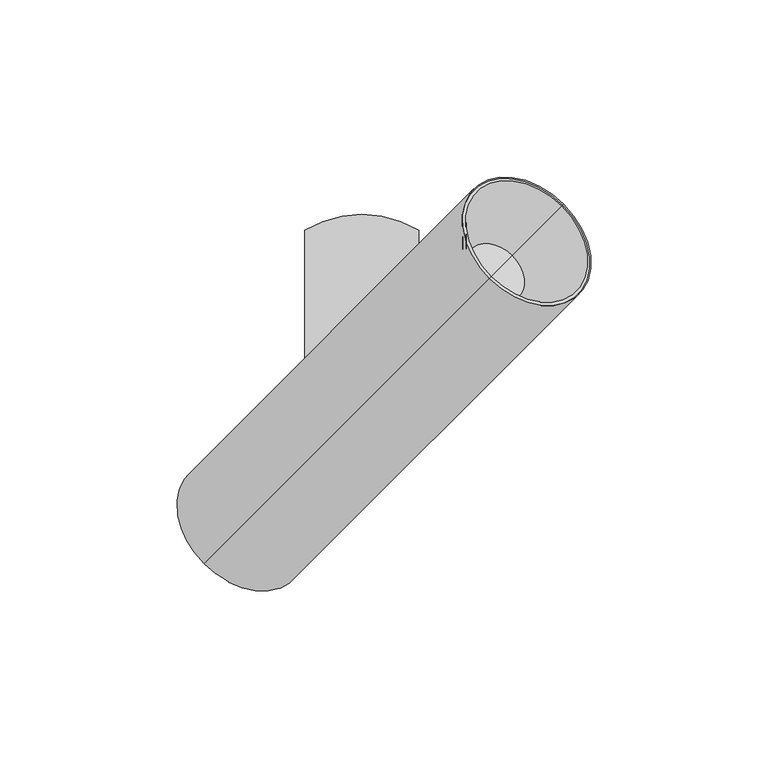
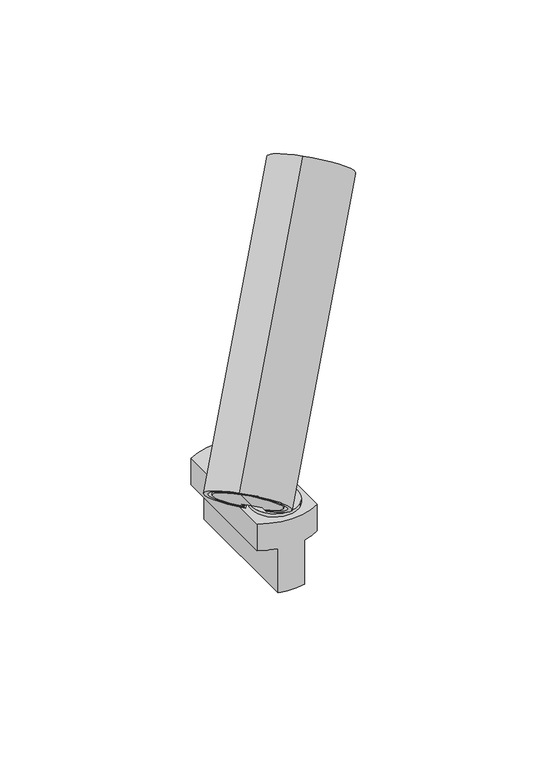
"""IFC4 building model written with IfcOpenShell, lengths in millimetres: light fixture geometry, PIPES T XS : 490lm 7,8W 930 38°."""

from ifc_helpers import new_model, si_unit, point, frame, frame_2d, origin, origin_2d, place, context, project, spatial, polyline, circle_curve, trimmed, segment, composite_curve, outline, extrude, source, transform, mapped, element, save
from ifc_brep_helpers import plane_surface, cylinder_surface, revolved_surface, advanced_brep


def light_fixture_6a247ec5(model_context):
    return source(origin(), model_context, "Body", "SolidModel", [
        extrude(outline(composite_curve([segment(polyline([(39.7303383, 0.0), (39.7303383, -7.9999999), (36.7303383, -7.9999999), (36.7303383, -10.0), (-21.31827, -10.0), (-21.31827, -2.0000001)]), True, "CONTINUOUS"), segment(trimmed(circle_curve(frame_2d((-15.691322, -2.0000001)), 5.626948), [point((-21.31827, -2.0000001))], [point((-15.691322, 3.626948))], False, "CARTESIAN"), True, "CONTINUOUS"), segment(polyline([(-15.691322, 3.626948), (-9.8735653, 3.626948)]), True, "CONTINUOUS"), segment(trimmed(circle_curve(frame_2d((-17.7182036, -2.2388678)), 9.7952104), [point((-9.8735653, 3.626948))], [point((-8.1822916, 0.0))], False, "CARTESIAN"), True, "CONTINUOUS"), segment(polyline([(-8.1822916, 0.0), (39.7303383, 0.0)]), True, "CONTINUOUS")], self_intersect=False)), frame((0.0, -7.0710678, 56.5303383), z_axis=(-0.707106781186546, 0.7071067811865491, 0.0), x_axis=(0.0, 0.0, -1.0)), (0.0, 0.0, 1.0), 10.0),
        extrude(outline(composite_curve([segment(trimmed(circle_curve(origin_2d(), 12.5), [point((-8.8388348, 8.8388348))], [point((8.8388348, -8.8388348))], False, "CARTESIAN"), True, "CONTINUOUS"), segment(trimmed(circle_curve(origin_2d(), 12.5), [point((8.8388348, -8.8388348))], [point((-8.8388348, 8.8388348))], False, "CARTESIAN"), True, "CONTINUOUS")], self_intersect=False)), frame((0.0, 0.0, 15.0), z_axis=(0.0, 0.0, 1.0), x_axis=(1.0, 0.0, 0.0)), (0.0, 0.0, 1.0), 1.8),
        advanced_brep(
        [(-7.1153658, -15.2862846, -25.0), (-7.1153658, 53.3498174, -25.0), (7.1153658, 53.3498174, -25.0), (7.1153658, -15.2862846, -25.0), (-16.1153658, 49.7317664, 15.0), (-16.1153658, -11.6682336, 15.0), (16.1153658, -11.6682336, 15.0), (16.1153658, 49.7317664, 15.0), (-16.1153658, 49.7317664, 0.0), (-16.1153658, -11.6682336, 0.0), (-7.1153658, -15.2862846, 0.0), (7.1153658, -15.2862846, 0.0), (16.1153658, -11.6682336, 0.0), (16.1153658, 49.7317664, 0.0), (7.1153658, 53.3498174, 0.0), (-7.1153658, 53.3498174, 0.0)],
        [
            (0, 1),
            (1, 2, circle_curve(frame((0.0, 22.6472542, -25.0), z_axis=(0.0, 0.0, -1.0), x_axis=(1.0, 0.0, 0.0)), 31.5162786)),
            (2, 3),
            (3, 0, circle_curve(frame((0.0, 15.4162786, -25.0), z_axis=(0.0, 0.0, -1.0), x_axis=(1.0, 0.0, 0.0)), 31.5162786)),
            (4, 5),
            (5, 6, circle_curve(frame((0.0, 15.4162786, 15.0), z_axis=(0.0, 0.0, 1.0), x_axis=(1.0, 0.0, 0.0)), 31.5162786)),
            (6, 7),
            (7, 4, circle_curve(frame((0.0, 22.6472542, 15.0), z_axis=(0.0, 0.0, 1.0), x_axis=(1.0, 0.0, 0.0)), 31.5162786)),
            (4, 8),
            (8, 9),
            (9, 5),
            (9, 10, circle_curve(frame((0.0, 15.4162786, 0.0), z_axis=(0.0, 0.0, 1.0), x_axis=(1.0, 0.0, 0.0)), 31.5162786)),
            (10, 0),
            (3, 11),
            (11, 12, circle_curve(frame((0.0, 15.4162786, 0.0), z_axis=(0.0, 0.0, 1.0), x_axis=(1.0, 0.0, 0.0)), 31.5162786)),
            (12, 6),
            (12, 13),
            (13, 7),
            (13, 14, circle_curve(frame((0.0, 22.6472542, 0.0), z_axis=(0.0, 0.0, 1.0), x_axis=(1.0, 0.0, 0.0)), 31.5162786)),
            (14, 2),
            (1, 15),
            (15, 8, circle_curve(frame((0.0, 22.6472542, 0.0), z_axis=(0.0, 0.0, 1.0), x_axis=(1.0, 0.0, 0.0)), 31.5162786)),
            (15, 10),
            (11, 14),
        ],
        [
            plane_surface(frame((-16.1153658, -11.6883244, -25.0), z_axis=(0.0, 0.0, -1.0), x_axis=(0.0, 1.0, 0.0))),
            plane_surface(frame((-16.1153658, -11.6883244, 15.0), z_axis=(0.0, 0.0, 1.0), x_axis=(0.0, -1.0, 0.0))),
            plane_surface(frame((-16.1153658, 49.7317664, 15.0), z_axis=(-1.0, 0.0, 0.0), x_axis=(0.0, 0.0, -1.0))),
            cylinder_surface(frame((0.0, 15.4162786, -25.0), z_axis=(0.0, 0.0, 1.0), x_axis=(1.0, 0.0, 0.0)), 31.5162786),
            plane_surface(frame((16.1153658, -11.6682336, 15.0), z_axis=(1.0, 0.0, 0.0), x_axis=(0.0, 0.0, -1.0))),
            cylinder_surface(frame((0.0, 22.6472542, -25.0), z_axis=(0.0, 0.0, 1.0), x_axis=(1.0, 0.0, 0.0)), 31.5162786),
            plane_surface(frame((-7.1153658, 58.6979838, 0.0), z_axis=(0.0, 0.0, -1.0), x_axis=(-1.0, 0.0, 0.0))),
            plane_surface(frame((-7.1153658, -21.3020162, 0.0), z_axis=(-1.0, 0.0, 0.0), x_axis=(0.0, 0.0, -1.0))),
            plane_surface(frame((7.1153658, -11.6883244, 0.0), z_axis=(0.0, 0.0, -1.0), x_axis=(0.0, -1.0, 0.0))),
            plane_surface(frame((7.1153658, 58.6979838, 0.0), z_axis=(1.0, 0.0, 0.0), x_axis=(0.0, 0.0, -1.0))),
        ],
        [
            (0, [[1, 2, 3, 4]]),
            (1, [[5, 6, 7, 8]]),
            (2, [[-5, 9, 10, 11]]),
            (3, [[-6, -11, 12, 13, -4, 14, 15, 16]]),
            (4, [[-7, -16, 17, 18]]),
            (5, [[-8, -18, 19, 20, -2, 21, 22, -9]]),
            (6, [[23, -12, -10, -22]]),
            (7, [[-23, -21, -1, -13]]),
            (8, [[24, -19, -17, -15]]),
            (9, [[-24, -14, -3, -20]]),
        ],
    ),
        advanced_brep(
        [(-3.5355339, 3.5355339, 80.0710678), (-29.0355339, -21.9644661, 44.008622), (-25.3703825, -18.2993147, 38.8253152), (-28.3703825, -21.2993147, 34.5826745), (-27.3374949, -20.2664271, 33.1219508), (1.1625051, 8.2335729, 73.4270373), (3.5355339, -3.5355339, 80.0710678), (8.2335729, 1.1625051, 73.4270373), (-20.2664271, -27.3374949, 33.1219508), (-21.2993147, -28.3703825, 34.5826745), (-18.2993147, -25.3703825, 38.8253152), (-21.9644661, -29.0355339, 44.008622), (-25.5, -25.5, 44.008622), (5.0, 5.0, 73.0), (57.0, 57.0, 146.5391052), (36.0, 36.0, 176.2375901), (-44.5, -44.5, 62.3933983), (-43.5, -43.5, 60.9791847), (-40.5, -40.5, 65.2218254), (-31.0, -31.0, 51.7867966), (32.25, 32.25, 155.37794), (42.25, 42.25, 141.2358044), (37.25, 37.25, 148.3068722)],
        [
            (0, 1),
            (1, 2),
            (2, 3),
            (3, 4),
            (4, 5),
            (5, 0),
            (6, 7),
            (7, 8),
            (8, 9),
            (9, 10),
            (10, 11),
            (11, 6),
            (0, 6),
            (11, 12),
            (12, 1),
            (5, 13, circle_curve(frame((-5.5, -5.5, 87.8492424), z_axis=(-0.4999999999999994, -0.4999999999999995, -0.7071067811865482), x_axis=(0.5000000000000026, 0.4999999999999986, -0.7071067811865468)), 21.0)),
            (13, 7, circle_curve(frame((-5.5, -5.5, 87.8492424), z_axis=(-0.4999999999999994, -0.4999999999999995, -0.7071067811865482), x_axis=(0.5000000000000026, 0.4999999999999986, -0.7071067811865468)), 21.0)),
            (14, 15, circle_curve(frame((46.5, 46.5, 161.3883476), z_axis=(-0.4999999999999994, -0.4999999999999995, -0.7071067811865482), x_axis=(0.5000000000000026, 0.4999999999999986, -0.7071067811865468)), 21.0)),
            (15, 16),
            (16, 8, circle_curve(frame((-34.0, -34.0, 47.5441559), z_axis=(0.4999999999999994, 0.4999999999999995, 0.7071067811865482), x_axis=(0.5000000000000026, 0.4999999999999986, -0.7071067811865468)), 21.0)),
            (13, 14),
            (15, 14, circle_curve(frame((46.5, 46.5, 161.3883476), z_axis=(-0.4999999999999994, -0.4999999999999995, -0.7071067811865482), x_axis=(0.5000000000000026, 0.4999999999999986, -0.7071067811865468)), 21.0)),
            (4, 16, circle_curve(frame((-34.0, -34.0, 47.5441559), z_axis=(0.4999999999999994, 0.4999999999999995, 0.7071067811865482), x_axis=(0.5000000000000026, 0.4999999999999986, -0.7071067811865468)), 21.0)),
            (16, 17),
            (17, 9, circle_curve(frame((-34.0, -34.0, 47.5441559), z_axis=(0.4999999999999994, 0.4999999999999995, 0.7071067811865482), x_axis=(0.5000000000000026, 0.4999999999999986, -0.7071067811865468)), 19.0)),
            (3, 17, circle_curve(frame((-34.0, -34.0, 47.5441559), z_axis=(0.4999999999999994, 0.4999999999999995, 0.7071067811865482), x_axis=(0.5000000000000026, 0.4999999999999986, -0.7071067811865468)), 19.0)),
            (17, 18),
            (18, 10, circle_curve(frame((-31.0, -31.0, 51.7867966), z_axis=(0.4999999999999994, 0.4999999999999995, 0.7071067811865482), x_axis=(0.5000000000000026, 0.4999999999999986, -0.7071067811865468)), 19.0)),
            (2, 18, circle_curve(frame((-31.0, -31.0, 51.7867966), z_axis=(0.4999999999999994, 0.4999999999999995, 0.7071067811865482), x_axis=(0.5000000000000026, 0.4999999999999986, -0.7071067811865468)), 19.0)),
            (18, 19),
            (19, 12),
            (20, 21, circle_curve(frame((37.25, 37.25, 148.3068722), z_axis=(0.4999999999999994, 0.4999999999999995, 0.7071067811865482), x_axis=(0.5000000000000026, 0.4999999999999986, -0.7071067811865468)), 10.0)),
            (21, 22),
            (22, 20),
            (21, 20, circle_curve(frame((37.25, 37.25, 148.3068722), z_axis=(0.4999999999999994, 0.4999999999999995, 0.7071067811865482), x_axis=(0.5000000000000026, 0.4999999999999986, -0.7071067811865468)), 10.0)),
            (14, 21),
            (20, 15),
        ],
        [
            plane_surface(frame((-3.5355339, 3.5355339, 80.0710678), z_axis=(0.7071067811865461, -0.7071067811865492, 0.0), x_axis=(0.4999999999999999, 0.49999999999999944, 0.7071067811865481))),
            plane_surface(frame((3.5355339, -3.5355339, 80.0710678), z_axis=(-0.7071067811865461, 0.7071067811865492, 0.0), x_axis=(-0.4999999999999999, -0.49999999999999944, -0.7071067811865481))),
            plane_surface(frame((3.5355339, -3.5355339, 80.0710678), z_axis=(0.5000000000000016, 0.49999999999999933, -0.707106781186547), x_axis=(-0.707106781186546, 0.7071067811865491, 0.0))),
            plane_surface(frame((13.5355339, 6.4644661, 65.9289322), z_axis=(-0.5, -0.49999999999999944, -0.707106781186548), x_axis=(-0.7071067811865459, 0.7071067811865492, 0.0))),
            cylinder_surface(frame((-38.2261905, -38.2261905, 41.56742), z_axis=(-0.4999999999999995, -0.4999999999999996, -0.7071067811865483), x_axis=(0.5000000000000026, 0.4999999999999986, -0.7071067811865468)), 21.0),
            plane_surface(frame((-34.0, -34.0, 47.5441559), z_axis=(-0.4999999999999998, -0.49999999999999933, -0.7071067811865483), x_axis=(0.5000000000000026, 0.4999999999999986, -0.7071067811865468))),
            revolved_surface(polyline([(-24.500000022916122, -24.500000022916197, 34.109127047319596), (-21.499999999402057, -21.499999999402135, 38.35176776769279)]), (-38.2261905, -38.2261905, 41.56742), (-0.4999999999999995, -0.4999999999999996, -0.7071067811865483)),
            revolved_surface(polyline([(-24.500000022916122, -24.500000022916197, 34.109127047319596), (-21.499999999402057, -21.499999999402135, 38.3517677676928)]), (-38.2261905, -38.2261905, 41.56742), (-0.4999999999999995, -0.4999999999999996, -0.7071067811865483)),
            plane_surface(frame((-31.0, -31.0, 51.7867966), z_axis=(-0.4999999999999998, -0.49999999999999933, -0.7071067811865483), x_axis=(0.5000000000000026, 0.4999999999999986, -0.7071067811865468))),
            plane_surface(frame((37.25, 37.25, 148.3068722), z_axis=(0.4999999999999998, 0.49999999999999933, 0.7071067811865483), x_axis=(0.5000000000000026, 0.4999999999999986, -0.7071067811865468))),
            revolved_surface(polyline([(42.25, 42.25, 141.2358044), (57.0, 57.0, 146.5391052)]), (-38.2261905, -38.2261905, 41.56742), (-0.4999999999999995, -0.4999999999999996, -0.7071067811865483)),
        ],
        [
            (0, [[1, 2, 3, 4, 5, 6]]),
            (1, [[7, 8, 9, 10, 11, 12]]),
            (2, [[13, -12, 14, 15, -1]]),
            (3, [[-13, -6, 16, 17, -7]]),
            (4, [[18, 19, 20, -8, -17, 21]]),
            (4, [[-19, 22, -21, -16, -5, 23]]),
            (5, [[24, 25, -9, -20]]),
            (5, [[-24, -23, -4, 26]]),
            (6, [[27, 28, -10, -25]]),
            (7, [[-27, -26, -3, 29]]),
            (8, [[30, 31, -14, -11, -28]]),
            (8, [[-30, -29, -2, -15, -31]]),
            (9, [[32, 33, 34]]),
            (9, [[-33, 35, -34]]),
            (10, [[-18, 36, -32, 37]]),
            (10, [[-22, -37, -35, -36]]),
        ],
    ),
        advanced_brep(
        [(-31.0355339, -23.9644661, 41.1801948), (-32.0355339, -24.9644661, 39.7659813), (-29.4148209, -22.3437531, 36.0597335), (-28.4148209, -21.3437531, 37.473947), (-24.9644661, -32.0355339, 39.7659813), (-23.9644661, -31.0355339, 41.1801948), (-21.3437531, -28.4148209, 37.473947), (-22.3437531, -29.4148209, 36.0597335), (-27.5, -27.5, 41.1801948), (-28.5, -28.5, 39.7659813), (-33.0, -33.0, 48.9583694), (-41.4968217, -41.4968217, 60.9746899), (-42.4968217, -42.4968217, 59.5604764), (-34.0, -34.0, 47.5441559)],
        [
            (0, 1),
            (1, 2),
            (2, 3),
            (3, 0),
            (4, 5),
            (5, 6),
            (6, 7),
            (7, 4),
            (0, 8),
            (8, 5),
            (4, 9),
            (9, 1),
            (10, 11),
            (11, 6, circle_curve(frame((-33.0, -33.0, 48.9583694), z_axis=(0.5000000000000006, 0.4999999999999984, 0.7071067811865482), x_axis=(0.5000000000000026, 0.49999999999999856, -0.7071067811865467)), 16.9936434)),
            (8, 10),
            (3, 11, circle_curve(frame((-33.0, -33.0, 48.9583694), z_axis=(0.5000000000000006, 0.4999999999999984, 0.7071067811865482), x_axis=(0.5000000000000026, 0.49999999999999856, -0.7071067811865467)), 16.9936434)),
            (11, 12),
            (12, 7, circle_curve(frame((-34.0, -34.0, 47.5441559), z_axis=(0.5000000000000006, 0.4999999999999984, 0.7071067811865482), x_axis=(0.5000000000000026, 0.49999999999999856, -0.7071067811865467)), 16.9936434)),
            (2, 12, circle_curve(frame((-34.0, -34.0, 47.5441559), z_axis=(0.5000000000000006, 0.4999999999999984, 0.7071067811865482), x_axis=(0.5000000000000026, 0.49999999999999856, -0.7071067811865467)), 16.9936434)),
            (12, 13),
            (13, 9),
        ],
        [
            plane_surface(frame((-3.5355339, 3.5355339, 80.0710678), z_axis=(0.7071067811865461, -0.7071067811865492, 0.0), x_axis=(0.4999999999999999, 0.49999999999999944, 0.7071067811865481))),
            plane_surface(frame((3.5355339, -3.5355339, 80.0710678), z_axis=(-0.7071067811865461, 0.7071067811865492, 0.0), x_axis=(-0.4999999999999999, -0.49999999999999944, -0.7071067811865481))),
            plane_surface(frame((3.5355339, -3.5355339, 80.0710678), z_axis=(0.5000000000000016, 0.49999999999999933, -0.707106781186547), x_axis=(-0.707106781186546, 0.7071067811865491, 0.0))),
            plane_surface(frame((-33.0, -33.0, 48.9583694), z_axis=(0.4999999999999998, 0.49999999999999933, 0.7071067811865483), x_axis=(0.5000000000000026, 0.4999999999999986, -0.7071067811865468))),
            cylinder_surface(frame((32.0238095, 32.0238095, 140.9159227), z_axis=(-0.5000000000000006, -0.4999999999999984, -0.7071067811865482), x_axis=(0.5000000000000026, 0.49999999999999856, -0.7071067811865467)), 16.9936434),
            plane_surface(frame((-34.0, -34.0, 47.5441559), z_axis=(-0.4999999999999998, -0.49999999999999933, -0.7071067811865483), x_axis=(0.5000000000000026, 0.4999999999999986, -0.7071067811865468))),
        ],
        [
            (0, [[1, 2, 3, 4]]),
            (1, [[5, 6, 7, 8]]),
            (2, [[-1, 9, 10, -5, 11, 12]]),
            (3, [[13, 14, -6, -10, 15]]),
            (3, [[-13, -15, -9, -4, 16]]),
            (4, [[17, 18, -7, -14]]),
            (4, [[-17, -16, -3, 19]]),
            (5, [[20, 21, -11, -8, -18]]),
            (5, [[-20, -19, -2, -12, -21]]),
        ],
    ),
        advanced_brep(
        [(33.034412, 33.034412, 155.6828275), (42.465588, 42.465588, 142.3451304), (37.75, 37.75, 149.013979), (36.5817093, 36.5817093, 175.4149289), (56.4182907, 56.4182907, 147.3617664), (36.0, 36.0, 176.2375901), (57.0, 57.0, 146.5391052), (32.25, 32.25, 155.37794), (42.25, 42.25, 141.2358044), (37.25, 37.25, 148.3068722)],
        [
            (0, 1, circle_curve(frame((37.75, 37.75, 149.013979), z_axis=(0.4999999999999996, 0.4999999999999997, 0.7071067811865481), x_axis=(0.5000000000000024, 0.4999999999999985, -0.707106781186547)), 9.431176)),
            (1, 2),
            (2, 0),
            (1, 0, circle_curve(frame((37.75, 37.75, 149.013979), z_axis=(0.4999999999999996, 0.4999999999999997, 0.7071067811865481), x_axis=(0.5000000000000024, 0.4999999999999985, -0.707106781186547)), 9.431176)),
            (3, 4, circle_curve(frame((46.5, 46.5, 161.3883476), z_axis=(0.4999999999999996, 0.4999999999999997, 0.7071067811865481), x_axis=(0.5000000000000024, 0.4999999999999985, -0.707106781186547)), 19.8365814)),
            (4, 1),
            (0, 3),
            (4, 3, circle_curve(frame((46.5, 46.5, 161.3883476), z_axis=(0.4999999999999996, 0.4999999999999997, 0.7071067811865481), x_axis=(0.5000000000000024, 0.4999999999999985, -0.707106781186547)), 19.8365814)),
            (5, 6, circle_curve(frame((46.5, 46.5, 161.3883476), z_axis=(0.4999999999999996, 0.4999999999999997, 0.7071067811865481), x_axis=(0.5000000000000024, 0.4999999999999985, -0.707106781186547)), 21.0)),
            (6, 4),
            (3, 5),
            (6, 5, circle_curve(frame((46.5, 46.5, 161.3883476), z_axis=(0.4999999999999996, 0.4999999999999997, 0.7071067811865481), x_axis=(0.5000000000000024, 0.4999999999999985, -0.707106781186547)), 21.0)),
            (7, 8, circle_curve(frame((37.25, 37.25, 148.3068722), z_axis=(0.4999999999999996, 0.4999999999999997, 0.7071067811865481), x_axis=(0.5000000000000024, 0.4999999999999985, -0.707106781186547)), 10.0)),
            (8, 6),
            (5, 7),
            (8, 7, circle_curve(frame((37.25, 37.25, 148.3068722), z_axis=(0.4999999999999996, 0.4999999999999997, 0.7071067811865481), x_axis=(0.5000000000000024, 0.4999999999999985, -0.707106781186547)), 10.0)),
            (9, 8),
            (7, 9),
        ],
        [
            plane_surface(frame((37.75, 37.75, 149.013979), z_axis=(0.4999999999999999, 0.49999999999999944, 0.7071067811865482), x_axis=(0.5000000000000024, 0.4999999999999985, -0.707106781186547))),
            revolved_surface(polyline([(42.465588, 42.465588, 142.3451304), (56.4182907, 56.4182907, 147.3617664)]), (-48.2261905, -48.2261905, 27.4252844), (-0.4999999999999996, -0.4999999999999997, -0.7071067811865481)),
            plane_surface(frame((46.5, 46.5, 161.3883476), z_axis=(0.4999999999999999, 0.49999999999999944, 0.7071067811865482), x_axis=(0.5000000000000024, 0.4999999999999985, -0.707106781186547))),
            revolved_surface(polyline([(57.0, 57.0, 146.5391052), (42.25, 42.25, 141.2358044)]), (-48.2261905, -48.2261905, 27.4252844), (-0.4999999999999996, -0.4999999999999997, -0.7071067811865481)),
            plane_surface(frame((37.25, 37.25, 148.3068722), z_axis=(-0.4999999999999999, -0.49999999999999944, -0.7071067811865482), x_axis=(0.5000000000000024, 0.4999999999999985, -0.707106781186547))),
        ],
        [
            (0, [[1, 2, 3]]),
            (0, [[4, -3, -2]]),
            (1, [[5, 6, -1, 7]]),
            (1, [[8, -7, -4, -6]]),
            (2, [[9, 10, -5, 11]]),
            (2, [[12, -11, -8, -10]]),
            (3, [[13, 14, -9, 15]]),
            (3, [[16, -15, -12, -14]]),
            (4, [[17, -13, 18]]),
            (4, [[-18, -16, -17]]),
        ],
    ),
    ])


if __name__ == "__main__":
    model = new_model("IFC4")
    model_context = context("Model", 3, world=origin())
    ifc_project = project(units=[si_unit("LENGTHUNIT", "METRE", prefix="MILLI")], contexts=[model_context])
    site = spatial("IfcSite", under=ifc_project)
    building = spatial("IfcBuilding", under=site)
    placement = place(None, origin())
    light_fixture_shape = light_fixture_6a247ec5(model_context)
    element("IfcLightFixture", 1, ObjectType="PIPES T XS : 490lm 7,8W 930 38°", at=placement, inside=building, context=model_context, shape_type="MappedRepresentation", body=[
        mapped(light_fixture_shape, transform((0.0, 0.0, 0.0), x_axis=(1.0, 0.0, 0.0), y_axis=(0.0, 1.0, 0.0), z_axis=(0.0, 0.0, 1.0))),
    ])
    save(model, "model.ifc")
